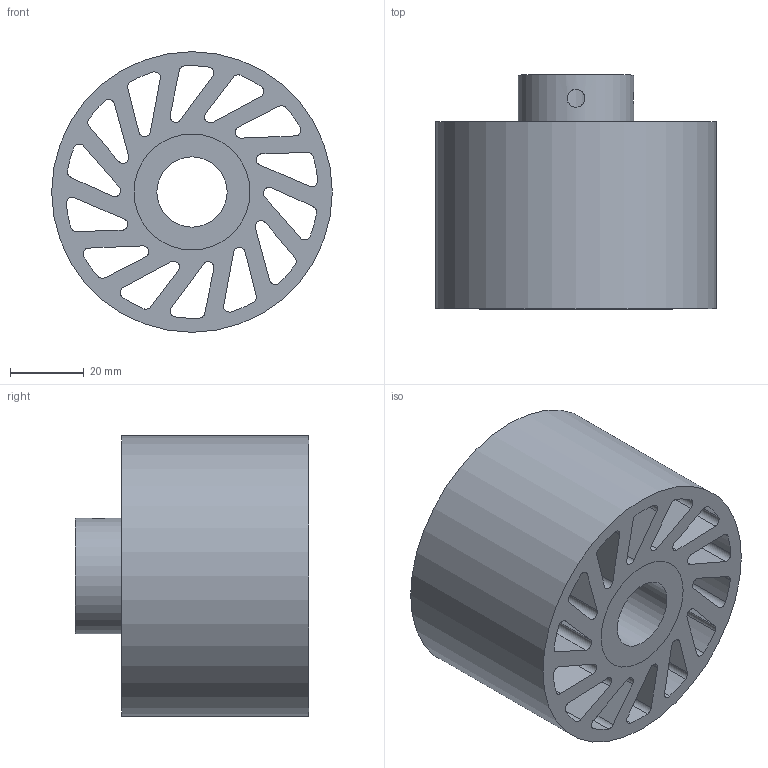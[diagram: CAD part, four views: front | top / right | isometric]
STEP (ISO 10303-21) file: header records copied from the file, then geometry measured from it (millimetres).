
FILE_DESCRIPTION(/* description */ (''),/* implementation_level */ '2;1');
FILE_NAME(/* name */ 'NCW-730-DUR-CLR.stp',/* time_stamp */ '2023-02-01T16:41:58-06:00',/* author */ ('AG'),/* organization */ ('Meridian Laboratory'),/* preprocessor_version */ 'ST-DEVELOPER v18.1',/* originating_system */ 'Autodesk Inventor 2022',/* authorisation */ '');
FILE_SCHEMA (('AUTOMOTIVE_DESIGN { 1 0 10303 214 3 1 1 }'));
Length unit declared in the file: inch
Products named in the file (1): NCW-640-DUR-CLR
Bounding box: 76.2 x 63.5 x 76.2 mm (x, y, z)
Volume: 152514.8 mm3; surface area: 63910.8 mm2
Topology: 2 solids, 2 shells, 94 faces, 274 edges, 184 vertices
Faces by surface type: cylinder 62, plane 32
Full cylindrical faces by diameter (mm): 4.826 x2, 19.075 x1, 31.496 x2, 76.2 x1
Entity records: 3512 total; most frequent: CARTESIAN_POINT 689, DIRECTION 576, ORIENTED_EDGE 548, EDGE_CURVE 274, AXIS2_PLACEMENT_3D 215, VERTEX_POINT 184, LINE 146, VECTOR 146
